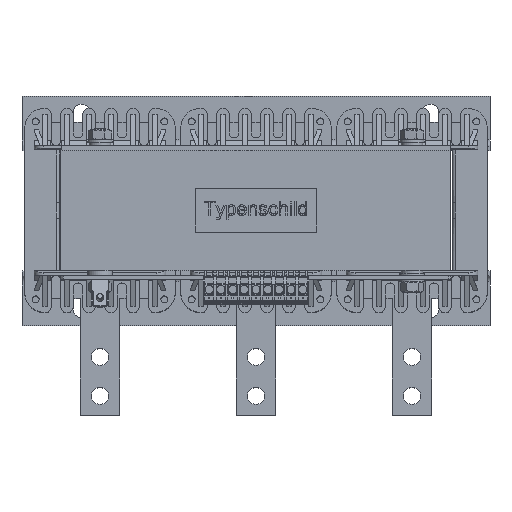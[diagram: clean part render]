
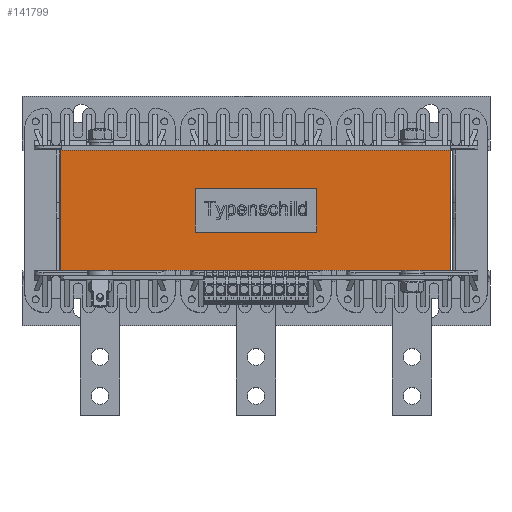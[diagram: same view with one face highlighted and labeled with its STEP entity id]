
A CAD part, top view. The second image highlights one B-rep face of the part: STEP entity #141799.
In plain terms, the highlighted planar face has unit normal (0, 0, 1).
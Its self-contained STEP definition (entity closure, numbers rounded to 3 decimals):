
#2183=FACE_BOUND('',#21567,.T.);
#6956=PLANE('',#152405);
#14097=FACE_OUTER_BOUND('',#21566,.T.);
#21566=EDGE_LOOP('',(#125441,#125442,#125443,#125444));
#21567=EDGE_LOOP('',(#125445,#125446,#125447,#125448));
#35621=LINE('',#235480,#50604);
#35624=LINE('',#235485,#50607);
#35626=LINE('',#235489,#50609);
#35627=LINE('',#235491,#50610);
#36540=LINE('',#239659,#51523);
#36541=LINE('',#239661,#51524);
#36542=LINE('',#239663,#51525);
#36543=LINE('',#239664,#51526);
#50604=VECTOR('',#185651,10.);
#50607=VECTOR('',#185656,10.);
#50609=VECTOR('',#185660,10.);
#50610=VECTOR('',#185663,10.);
#51523=VECTOR('',#188330,10.);
#51524=VECTOR('',#188331,10.);
#51525=VECTOR('',#188332,10.);
#51526=VECTOR('',#188333,10.);
#66518=VERTEX_POINT('',#235477);
#66519=VERTEX_POINT('',#235479);
#66520=VERTEX_POINT('',#235483);
#66521=VERTEX_POINT('',#235487);
#67379=VERTEX_POINT('',#239657);
#67380=VERTEX_POINT('',#239658);
#67381=VERTEX_POINT('',#239660);
#67382=VERTEX_POINT('',#239662);
#85361=EDGE_CURVE('',#66519,#66518,#35621,.T.);
#85364=EDGE_CURVE('',#66518,#66520,#35624,.T.);
#85366=EDGE_CURVE('',#66520,#66521,#35626,.T.);
#85367=EDGE_CURVE('',#66521,#66519,#35627,.T.);
#86767=EDGE_CURVE('',#67379,#67380,#36540,.T.);
#86768=EDGE_CURVE('',#67380,#67381,#36541,.T.);
#86769=EDGE_CURVE('',#67381,#67382,#36542,.T.);
#86770=EDGE_CURVE('',#67382,#67379,#36543,.T.);
#125441=ORIENTED_EDGE('',*,*,#86767,.T.);
#125442=ORIENTED_EDGE('',*,*,#86768,.T.);
#125443=ORIENTED_EDGE('',*,*,#86769,.T.);
#125444=ORIENTED_EDGE('',*,*,#86770,.T.);
#125445=ORIENTED_EDGE('',*,*,#85361,.T.);
#125446=ORIENTED_EDGE('',*,*,#85364,.T.);
#125447=ORIENTED_EDGE('',*,*,#85366,.T.);
#125448=ORIENTED_EDGE('',*,*,#85367,.T.);
#141799=ADVANCED_FACE('',(#14097,#2183),#6956,.T.);
#152405=AXIS2_PLACEMENT_3D('',#239656,#188328,#188329);
#185651=DIRECTION('',(0.,1.,0.));
#185656=DIRECTION('',(1.,0.,0.));
#185660=DIRECTION('',(0.,-1.,0.));
#185663=DIRECTION('',(-1.,0.,0.));
#188328=DIRECTION('center_axis',(0.,0.,1.));
#188329=DIRECTION('ref_axis',(-1.,0.,0.));
#188330=DIRECTION('',(1.,0.,0.));
#188331=DIRECTION('',(0.,1.,0.));
#188332=DIRECTION('',(-1.,0.,0.));
#188333=DIRECTION('',(0.,-1.,0.));
#235477=CARTESIAN_POINT('',(-39.,14.,125.));
#235479=CARTESIAN_POINT('',(-39.,-14.,125.));
#235480=CARTESIAN_POINT('',(-39.,-7.,125.));
#235483=CARTESIAN_POINT('',(39.,14.,125.));
#235485=CARTESIAN_POINT('',(-82.,14.,125.));
#235487=CARTESIAN_POINT('',(39.,-14.,125.));
#235489=CARTESIAN_POINT('',(39.,7.,125.));
#235491=CARTESIAN_POINT('',(-43.,-14.,125.));
#239656=CARTESIAN_POINT('Origin',(-125.,0.,125.));
#239657=CARTESIAN_POINT('',(-125.,-38.5,125.));
#239658=CARTESIAN_POINT('',(125.,-38.5,125.));
#239659=CARTESIAN_POINT('',(-125.,-38.5,125.));
#239660=CARTESIAN_POINT('',(125.,38.5,125.));
#239661=CARTESIAN_POINT('',(125.,0.,125.));
#239662=CARTESIAN_POINT('',(-125.,38.5,125.));
#239663=CARTESIAN_POINT('',(-125.,38.5,125.));
#239664=CARTESIAN_POINT('',(-125.,0.,125.));
